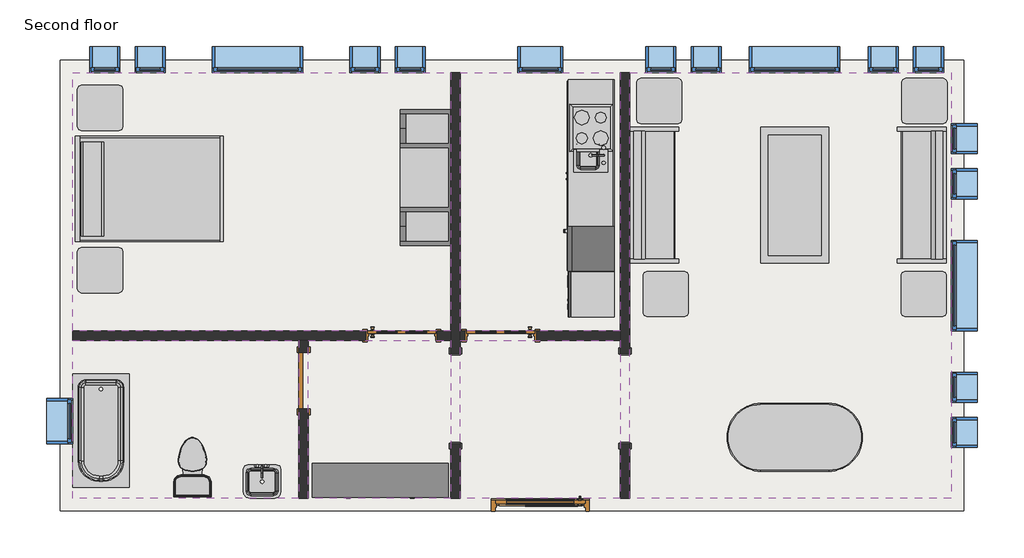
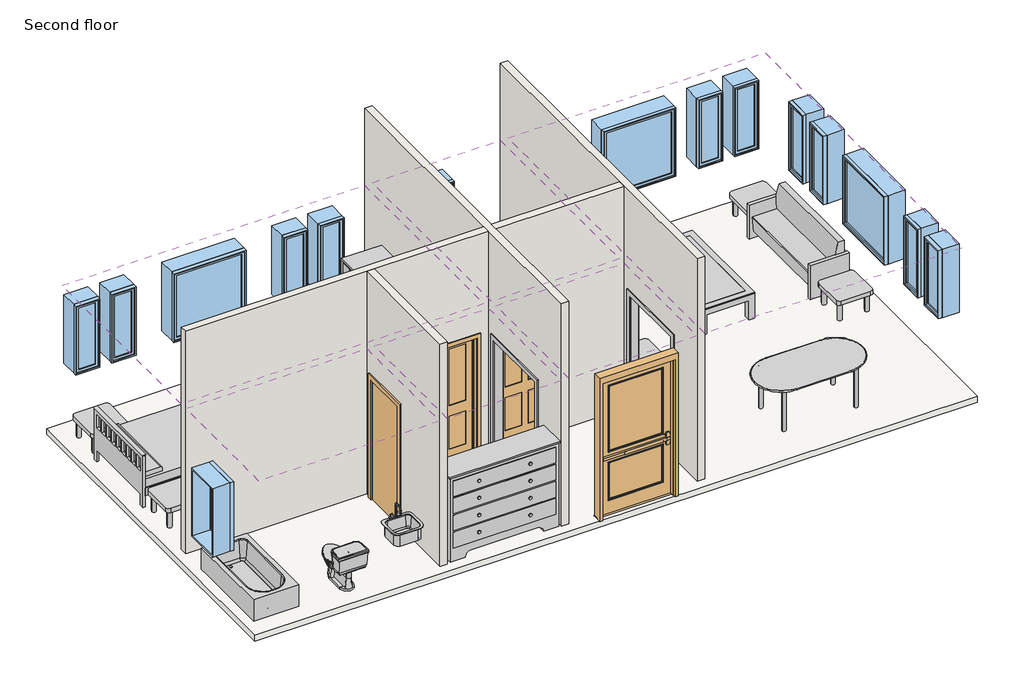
# One storey, incomplete: 17 windows, 14 furniture elements, 6 coverings, 6 proxies, 4 doors, 4 flow terminals, 4 walls, 1 slab.
"""IFC4 building model written with IfcOpenShell, lengths in millimetres."""

from ifc_helpers import new_model, si_unit, frame, origin, place, context, project, spatial, polyline, outline, extrude, faceted_brep, transform, mapped, element, save
from components import proxy_a6faaae8, proxy_45b28599, proxy_2d72b8be, proxy_f44482cc, proxy_d58c73d0, proxy_c523a7b7, door_734823c0, door_3a280f7b, door_48307b55, door_4d6c7550, flow_terminal_871c2e40, flow_terminal_62a433f7, toilet_domestic_3d_toilet_domestic_3d_f7549cf7, toilet_domestic_3d_toilet_domestic_3d_183bbd19, tub_rectangular_3d_tub_rectangular_3d_c56944d8, furniture_096e7f55, furniture_b11095bc, furniture_7c473f12, furniture_cf0b6580, furniture_a4ffab56, furniture_4aa42607, furniture_cd93a443, furniture_2c34a4f9, furniture_3a588284, furniture_1befe2a2, window_da97879f, window_d61ef850, window_60baf983, window_6eb97611

model = new_model("IFC4")

# Units and contexts
model_context = context("Model", 3, world=origin())
ifc_project = project(units=[si_unit("LENGTHUNIT", "METRE", prefix="MILLI")], contexts=[model_context])

# Site, building, storey
site = spatial("IfcSite", under=ifc_project)
building = spatial("IfcBuilding", under=site)
storey = spatial("IfcBuildingStorey", under=building, Name="Second floor", Elevation=3048.0)

# Proxies
placement = place(None, origin())
proxy_shape = proxy_a6faaae8(model_context)
element("IfcBuildingElementProxy", 1, Name="Cook Top-4 Unit2 : 22\" x 20\"", ObjectType="Cook Top-4 Unit2 : 22\" x 20\"", at=placement, inside=storey, context=model_context, shape_type="MappedRepresentation", body=[
    mapped(proxy_shape, transform((-9031.7273953, 6866.0370415, 3049.7), x_axis=(0.0, 1.0, 0.0), y_axis=(-1.0, 0.0, 0.0), z_axis=(0.0, 0.0, 1.0))),
])
proxy_2_shape = proxy_45b28599(model_context)
element("IfcBuildingElementProxy", 2, Name="Dishwasher : 24\" x 24\" x 34\"", ObjectType="Dishwasher : 24\" x 24\" x 34\"", at=placement, inside=storey, context=model_context, shape_type="MappedRepresentation", body=[
    mapped(proxy_2_shape, transform((-9291.8269601, 5000.45451, 3048.0), x_axis=(0.0, -1.0, 0.0), y_axis=(1.0, 0.0, 0.0), z_axis=(0.0, 0.0, 1.0))),
])
proxy_3_shape = proxy_2d72b8be(model_context)
element("IfcBuildingElementProxy", 3, Name="Kitchenette - Medium : 8'6\"", ObjectType="Kitchenette - Medium : 8'6\"", at=placement, inside=storey, context=model_context, shape_type="MappedRepresentation", body=[
    mapped(proxy_3_shape, transform((-8720.5773953, 6237.0747464, 3048.0), x_axis=(0.0, -1.0, 0.0), y_axis=(1.0, 0.0, 0.0), z_axis=(0.0, 0.0, 1.0))),
])
proxy_4_shape = proxy_f44482cc(model_context)
element("IfcBuildingElementProxy", 4, Name="Passage Opening-Cased : 48\" x 84\"", ObjectType="Passage Opening-Cased : 48\" x 84\"", at=placement, inside=storey, context=model_context, shape_type="MappedRepresentation", body=[
    mapped(proxy_4_shape, transform((-8577.1844712, 3224.0452741, 3048.0), x_axis=(0.0, 1.0, 0.0), y_axis=(-1.0, 0.0, 0.0), z_axis=(0.0, 0.0, 1.0))),
])
proxy_5_shape = proxy_d58c73d0(model_context)
element("IfcBuildingElementProxy", 5, Name="Passage Opening-Cased : 48\" x 84\"", ObjectType="Passage Opening-Cased : 48\" x 84\"", at=placement, inside=storey, context=model_context, shape_type="MappedRepresentation", body=[
    mapped(proxy_5_shape, transform((-10863.1844712, 3224.0452741, 3048.0), x_axis=(0.0, 1.0, 0.0), y_axis=(-1.0, 0.0, 0.0), z_axis=(0.0, 0.0, 1.0))),
])
proxy_6_shape = proxy_c523a7b7(model_context)
element("IfcBuildingElementProxy", 6, Name="Refrigerator : 24\" x 25\" LH", ObjectType="Refrigerator : 24\" x 25\" LH", at=placement, inside=storey, context=model_context, shape_type="MappedRepresentation", body=[
    mapped(proxy_6_shape, transform((-9020.2263668, 5234.0870415, 3048.0), x_axis=(0.0, -1.0, 0.0), y_axis=(1.0, 0.0, 0.0), z_axis=(0.0, 0.0, 1.0))),
])

# Coverings
element("IfcCovering", 7, ObjectType="GWB on Mtl. Stud", at=placement, inside=storey, context=model_context, shape_type="SweptSolid", body=[
    extrude(outline(polyline([(-16020.9719712, 7611.6441174), (-10926.6844712, 7611.6441174), (-10926.6844712, 4128.6691174), (-16020.9719712, 4128.6691174), (-16020.9719712, 7611.6441174)])), frame((0.0, 0.0, 5638.8), z_axis=(0.0, 0.0, 1.0), x_axis=(1.0, 0.0, 0.0)), (0.0, 0.0, 1.0), 107.95),
])
element("IfcCovering", 8, ObjectType="GWB on Mtl. Stud", at=placement, inside=storey, context=model_context, shape_type="SweptSolid", body=[
    extrude(outline(polyline([(-10799.6844712, 4128.6691174), (-10799.6844712, 7611.6441174), (-8640.6844712, 7611.6441174), (-8640.6844712, 4128.6691174), (-10799.6844712, 4128.6691174)])), frame((0.0, 0.0, 5638.8), z_axis=(0.0, 0.0, 1.0), x_axis=(1.0, 0.0, 0.0)), (0.0, 0.0, 1.0), 107.95),
])
element("IfcCovering", 9, ObjectType="GWB on Mtl. Stud", at=placement, inside=storey, context=model_context, shape_type="SweptSolid", body=[
    extrude(outline(polyline([(-8513.6844712, 1868.0691174), (-8513.6844712, 7611.6441174), (-4181.3969712, 7611.6441174), (-4181.3969712, 1868.0691174), (-8513.6844712, 1868.0691174)])), frame((0.0, 0.0, 5638.8), z_axis=(0.0, 0.0, 1.0), x_axis=(1.0, 0.0, 0.0)), (0.0, 0.0, 1.0), 107.95),
])
element("IfcCovering", 10, ObjectType="GWB on Mtl. Stud", at=placement, inside=storey, context=model_context, shape_type="SweptSolid", body=[
    extrude(outline(polyline([(-8640.6844712, 1868.0691174), (-10799.6844712, 1868.0691174), (-10799.6844712, 4001.6691174), (-8640.6844712, 4001.6691174), (-8640.6844712, 1868.0691174)])), frame((0.0, 0.0, 5638.8), z_axis=(0.0, 0.0, 1.0), x_axis=(1.0, 0.0, 0.0)), (0.0, 0.0, 1.0), 107.95),
])
element("IfcCovering", 11, ObjectType="GWB on Mtl. Stud", at=placement, inside=storey, context=model_context, shape_type="SweptSolid", body=[
    extrude(outline(polyline([(-10926.6844712, 1868.0691174), (-12845.9719712, 1868.0691174), (-12845.9719712, 4001.6691174), (-10926.6844712, 4001.6691174), (-10926.6844712, 1868.0691174)])), frame((0.0, 0.0, 5638.8), z_axis=(0.0, 0.0, 1.0), x_axis=(1.0, 0.0, 0.0)), (0.0, 0.0, 1.0), 107.95),
])
element("IfcCovering", 12, ObjectType="GWB on Mtl. Stud", at=placement, inside=storey, context=model_context, shape_type="SweptSolid", body=[
    extrude(outline(polyline([(-12972.9719712, 4001.6691174), (-12972.9719712, 1868.0691174), (-16020.9719712, 1868.0691174), (-16020.9719712, 4001.6691174), (-12972.9719712, 4001.6691174)])), frame((0.0, 0.0, 5638.8), z_axis=(0.0, 0.0, 1.0), x_axis=(1.0, 0.0, 0.0)), (0.0, 0.0, 1.0), 107.95),
])

# Doors
door_shape = door_734823c0(model_context)
element("IfcDoor", 13, ObjectType="Door-Exterior-Single-Two_Lite : 48\" x 96\"", at=placement, inside=storey, context=model_context, shape_type="MappedRepresentation", body=[
    mapped(door_shape, transform((-9720.1844712, 1685.5066174, 3048.0), x_axis=(-1.0, 0.0, 0.0), y_axis=(0.0, -1.0, 0.0), z_axis=(0.0, 0.0, 1.0))),
])
door_2_shape = door_3a280f7b(model_context)
element("IfcDoor", 14, ObjectType="Door-Interior-Single-4_Panel-Wood : 36\" x 84\"", at=placement, inside=storey, context=model_context, shape_type="MappedRepresentation", body=[
    mapped(door_2_shape, transform((-10253.5844712, 4068.3441174, 3048.0), x_axis=(-1.0, 0.0, 0.0), y_axis=(0.0, -1.0, 0.0), z_axis=(0.0, 0.0, 1.0))),
])
door_3_shape = door_48307b55(model_context)
element("IfcDoor", 15, ObjectType="Door-Interior-Single-4_Panel-Wood : 36\" x 84\"", at=placement, inside=storey, context=model_context, shape_type="MappedRepresentation", body=[
    mapped(door_3_shape, transform((-11588.6719712, 4068.3441174, 3048.0), x_axis=(1.0, 0.0, 0.0), y_axis=(0.0, 1.0, 0.0), z_axis=(0.0, 0.0, 1.0))),
])
door_4_shape = door_4d6c7550(model_context)
element("IfcDoor", 16, ObjectType="Single-Flush : 30\" x 84\"", at=placement, inside=storey, context=model_context, shape_type="MappedRepresentation", body=[
    mapped(door_4_shape, transform((-12909.4719712, 3455.5691174, 3048.0), x_axis=(0.0, 1.0, 0.0), y_axis=(-1.0, 0.0, 0.0), z_axis=(0.0, 0.0, 1.0))),
])

# Flow terminals
flow_terminal_shape = flow_terminal_871c2e40(model_context)
element("IfcFlowTerminal", 17, ObjectType="Sink Kitchen-Island : 18\" x 18\"", at=placement, inside=storey, context=model_context, shape_type="MappedRepresentation", body=[
    mapped(flow_terminal_shape, transform((-9040.4227964, 6513.4262821, 3035.3), x_axis=(0.0, -1.0, 0.0), y_axis=(1.0, 0.0, 0.0), z_axis=(0.0, 0.0, 1.0))),
])
flow_terminal_2_shape = flow_terminal_62a433f7(model_context)
element("IfcFlowTerminal", 18, ObjectType="Sink Vanity-Square : 20\" x 18\"", at=placement, inside=storey, context=model_context, shape_type="MappedRepresentation", body=[
    mapped(flow_terminal_2_shape, transform((-13483.9612118, 2145.1237163, 3048.0), x_axis=(1.0, 0.0, 0.0), y_axis=(0.0, 1.0, 0.0), z_axis=(0.0, 0.0, 1.0))),
])
toilet_domestic_3d_toilet_domestic_3d_shape = toilet_domestic_3d_toilet_domestic_3d_f7549cf7(model_context)
toilet_domestic_3d_toilet_domestic_3d_2_shape = toilet_domestic_3d_toilet_domestic_3d_183bbd19(model_context)
element("IfcFlowTerminal", 19, ObjectType="Toilet-Domestic-3D : Toilet-Domestic-3D", at=placement, inside=storey, context=model_context, shape_type="MappedRepresentation", body=[
    mapped(toilet_domestic_3d_toilet_domestic_3d_shape, transform((-14408.0719712, 2388.7691174, 3048.0), x_axis=(-1.0, 0.0, 0.0), y_axis=(0.0, -1.0, 0.0), z_axis=(0.0, 0.0, 1.0))),
    mapped(toilet_domestic_3d_toilet_domestic_3d_2_shape, transform((-14408.0719712, 2388.7691174, 3048.0), x_axis=(-1.0, 0.0, 0.0), y_axis=(0.0, -1.0, 0.0), z_axis=(0.0, 0.0, 1.0))),
])
tub_rectangular_3d_tub_rectangular_3d_shape = tub_rectangular_3d_tub_rectangular_3d_c56944d8(model_context)
element("IfcFlowTerminal", 20, ObjectType="Tub-Rectangular-3D : Tub-Rectangular-3D", at=placement, inside=storey, context=model_context, shape_type="MappedRepresentation", body=[
    mapped(tub_rectangular_3d_tub_rectangular_3d_shape, transform((-16197.1844712, 2435.4536487, 3048.0), x_axis=(0.0, -1.0, 0.0), y_axis=(1.0, 0.0, 0.0), z_axis=(0.0, 0.0, 1.0))),
])

# Furniture
furniture_shape = furniture_096e7f55(model_context)
element("IfcFurniture", 21, ObjectType="Bed-Shaker : Double 56\" x 78\"", at=placement, inside=storey, context=model_context, shape_type="MappedRepresentation", body=[
    mapped(furniture_shape, transform((-15975.8112951, 6061.1004868, 3048.0), x_axis=(0.0, 1.0, 0.0), y_axis=(-1.0, 0.0, 0.0), z_axis=(0.0, 0.0, 1.0))),
])
furniture_2_shape = furniture_b11095bc(model_context)
element("IfcFurniture", 22, ObjectType="Counter Top w Sink Hole : 24\" Depth", at=placement, inside=storey, context=model_context, shape_type="MappedRepresentation", body=[
    mapped(furniture_2_shape, transform((-8720.5773953, 6313.2747464, 3035.3), x_axis=(0.0, -1.0, 0.0), y_axis=(1.0, 0.0, 0.0), z_axis=(0.0, 0.0, 1.0))),
])
furniture_3_shape = furniture_7c473f12(model_context)
element("IfcFurniture", 23, ObjectType="Dresser : 72\" x 60\" x 18\"", at=placement, inside=storey, context=model_context, shape_type="MappedRepresentation", body=[
    mapped(furniture_3_shape, transform((-11608.4037114, 2478.8820715, 3048.0), x_axis=(1.0, 0.0, 0.0), y_axis=(0.0, 1.0, 0.0), z_axis=(0.0, 0.0, 1.0))),
])
furniture_4_shape = furniture_cf0b6580(model_context)
element("IfcFurniture", 24, ObjectType="Entertainment Center : 72\" x 72\" x 24\"", at=placement, inside=storey, context=model_context, shape_type="MappedRepresentation", body=[
    mapped(furniture_4_shape, transform((-10825.0844712, 6196.8069525, 3048.0), x_axis=(0.0, -1.0, 0.0), y_axis=(1.0, 0.0, 0.0), z_axis=(0.0, 0.0, 1.0))),
])
furniture_5_shape = furniture_a4ffab56(model_context)
element("IfcFurniture", 25, ObjectType="Sofa : 72\"", at=placement, inside=storey, context=model_context, shape_type="MappedRepresentation", body=[
    mapped(furniture_5_shape, transform((-8037.3303728, 5888.6861256, 3048.0), x_axis=(0.0, 1.0, 0.0), y_axis=(-1.0, 0.0, 0.0), z_axis=(0.0, 0.0, 1.0))),
])
furniture_6_shape = furniture_4aa42607(model_context)
element("IfcFurniture", 26, ObjectType="Sofa : 72\"", at=placement, inside=storey, context=model_context, shape_type="MappedRepresentation", body=[
    mapped(furniture_6_shape, transform((-4722.8385696, 5888.6861256, 3048.0), x_axis=(0.0, 1.0, 0.0), y_axis=(-1.0, 0.0, 0.0), z_axis=(0.0, 0.0, 1.0))),
])
furniture_7_shape = furniture_cd93a443(model_context)
element("IfcFurniture", 27, ObjectType="Table-Coffee : 36\" x 72\" x 18\"", at=placement, inside=storey, context=model_context, shape_type="MappedRepresentation", body=[
    mapped(furniture_7_shape, transform((-6386.395549, 5977.3223841, 3048.0), x_axis=(0.0, -1.0, 0.0), y_axis=(1.0, 0.0, 0.0), z_axis=(0.0, 0.0, 1.0))),
])
furniture_8_shape = furniture_2c34a4f9(model_context)
element("IfcFurniture", 28, ObjectType="Table-Dining Oval : 36\" x 72\"", at=placement, inside=storey, context=model_context, shape_type="MappedRepresentation", body=[
    mapped(furniture_8_shape, transform((-5889.3647991, 3051.6674781, 3048.0), x_axis=(1.0, 0.0, 0.0), y_axis=(0.0, 1.0, 0.0), z_axis=(0.0, 0.0, 1.0))),
])
furniture_9_shape = furniture_3a588284(model_context)
element("IfcFurniture", 29, ObjectType="Table-End : 24\" x 24\"", at=placement, inside=storey, context=model_context, shape_type="MappedRepresentation", body=[
    mapped(furniture_9_shape, transform((-8424.0054177, 7076.6566174, 3048.0), x_axis=(1.0, 0.0, 0.0), y_axis=(0.0, 1.0, 0.0), z_axis=(0.0, 0.0, 1.0))),
])
element("IfcFurniture", 30, ObjectType="Table-End : 24\" x 24\"", at=placement, inside=storey, context=model_context, shape_type="MappedRepresentation", body=[
    mapped(furniture_9_shape, transform((-8338.5433691, 4473.0178252, 3048.0), x_axis=(1.0, 0.0, 0.0), y_axis=(0.0, 1.0, 0.0), z_axis=(0.0, 0.0, 1.0))),
])
element("IfcFurniture", 31, ObjectType="Table-End : 24\" x 24\"", at=placement, inside=storey, context=model_context, shape_type="MappedRepresentation", body=[
    mapped(furniture_9_shape, transform((-15961.2056015, 4795.4191174, 3048.0), x_axis=(1.0, 0.0, 0.0), y_axis=(0.0, 1.0, 0.0), z_axis=(0.0, 0.0, 1.0))),
])
furniture_10_shape = furniture_1befe2a2(model_context)
element("IfcFurniture", 32, ObjectType="Table-End : 24\" x 24\"", at=placement, inside=storey, context=model_context, shape_type="MappedRepresentation", body=[
    mapped(furniture_10_shape, transform((-4234.5635246, 7076.6566174, 3048.0), x_axis=(-1.0, 0.0, 0.0), y_axis=(0.0, -1.0, 0.0), z_axis=(0.0, 0.0, 1.0))),
])
element("IfcFurniture", 33, ObjectType="Table-End : 24\" x 24\"", at=placement, inside=storey, context=model_context, shape_type="MappedRepresentation", body=[
    mapped(furniture_10_shape, transform((-4243.8255733, 4473.0178252, 3048.0), x_axis=(-1.0, 0.0, 0.0), y_axis=(0.0, -1.0, 0.0), z_axis=(0.0, 0.0, 1.0))),
])
element("IfcFurniture", 34, ObjectType="Table-End : 24\" x 24\"", at=placement, inside=storey, context=model_context, shape_type="MappedRepresentation", body=[
    mapped(furniture_10_shape, transform((-15961.2056015, 7288.6818561, 3048.0), x_axis=(1.0, 0.0, 0.0), y_axis=(0.0, 1.0, 0.0), z_axis=(0.0, 0.0, 1.0))),
])

# Slab
element("IfcSlab", 35, ObjectType="LW Concrete on Metal Deck", at=placement, inside=storey, context=model_context, shape_type="SweptSolid", body=[
    extrude(outline(polyline([(-4016.2969712, 7776.7441174), (-4016.2969712, 1702.9691174), (-16186.0719712, 1702.9691174), (-16186.0719712, 7776.7441174), (-4016.2969712, 7776.7441174)])), frame((0.0, 0.0, 2943.225), z_axis=(0.0, 0.0, 1.0), x_axis=(1.0, 0.0, 0.0)), (0.0, 0.0, 1.0), 104.775),
])

# Walls
element("IfcWall", 36, ObjectType="Interior - 5\" Partition (2-hr)", at=placement, inside=storey, context=model_context, shape_type="Brep", body=[
    faceted_brep([(-8640.6844712, 7611.6441174, 3048.0), (-8640.6844712, 4128.6691174, 3048.0), (-8640.6844712, 4001.6691174, 3048.0), (-8640.6844712, 3825.4566174, 3048.0), (-8640.6844712, 3825.4566174, 5181.6), (-8640.6844712, 2606.2566174, 5181.6), (-8640.6844712, 2606.2566174, 3048.0), (-8640.6844712, 1868.0691174, 3048.0), (-8640.6844712, 1868.0691174, 7010.4), (-8640.6844712, 4001.6691174, 7010.4), (-8640.6844712, 4128.6691174, 7010.4), (-8640.6844712, 7611.6441174, 7010.4), (-8513.6844712, 3825.4566174, 5181.6), (-8513.6844712, 3825.4566174, 3048.0), (-8513.6844712, 7611.6441174, 3048.0), (-8513.6844712, 7611.6441174, 7010.4), (-8513.6844712, 1868.0691174, 7010.4), (-8513.6844712, 1868.0691174, 3048.0), (-8513.6844712, 2606.2566174, 3048.0), (-8513.6844712, 2606.2566174, 5181.6)], [[[0, 1, 2, 3, 4, 5, 6, 7, 8, 9, 10, 11]], [[12, 13, 14, 15, 16, 17, 18, 19]], [[18, 17, 7, 6]], [[14, 13, 3, 2, 1, 0]], [[11, 10, 9, 8, 16, 15]], [[6, 5, 19, 18]], [[4, 3, 13, 12]], [[5, 4, 12, 19]], [[0, 11, 15, 14]], [[8, 7, 17, 16]]]),
])
element("IfcWall", 37, ObjectType="Interior - 5\" Partition (2-hr)", at=placement, inside=storey, context=model_context, shape_type="Brep", body=[
    faceted_brep([(-10926.6844712, 7611.6441174, 3048.0), (-10926.6844712, 4128.6691174, 3048.0), (-10926.6844712, 4001.6691174, 3048.0), (-10926.6844712, 3825.4566174, 3048.0), (-10926.6844712, 3825.4566174, 5181.6), (-10926.6844712, 2606.2566174, 5181.6), (-10926.6844712, 2606.2566174, 3048.0), (-10926.6844712, 1868.0691174, 3048.0), (-10926.6844712, 1868.0691174, 7010.4), (-10926.6844712, 4001.6691174, 7010.4), (-10926.6844712, 4128.6691174, 7010.4), (-10926.6844712, 7611.6441174, 7010.4), (-10799.6844712, 3825.4566174, 5181.6), (-10799.6844712, 3825.4566174, 3048.0), (-10799.6844712, 4001.6691174, 3048.0), (-10799.6844712, 4128.6691174, 3048.0), (-10799.6844712, 7611.6441174, 3048.0), (-10799.6844712, 7611.6441174, 7010.4), (-10799.6844712, 4128.6691174, 7010.4), (-10799.6844712, 4001.6691174, 7010.4), (-10799.6844712, 1868.0691174, 7010.4), (-10799.6844712, 1868.0691174, 3048.0), (-10799.6844712, 2606.2566174, 3048.0), (-10799.6844712, 2606.2566174, 5181.6)], [[[0, 1, 2, 3, 4, 5, 6, 7, 8, 9, 10, 11]], [[12, 13, 14, 15, 16, 17, 18, 19, 20, 21, 22, 23]], [[22, 21, 7, 6]], [[16, 15, 14, 13, 3, 2, 1, 0]], [[11, 10, 9, 8, 20, 19, 18, 17]], [[6, 5, 23, 22]], [[4, 3, 13, 12]], [[5, 4, 12, 23]], [[0, 11, 17, 16]], [[8, 7, 21, 20]]]),
])
element("IfcWall", 38, ObjectType="Interior - 5\" Partition (2-hr)", at=placement, inside=storey, context=model_context, shape_type="Brep", body=[
    faceted_brep([(-8640.6844712, 4001.6691174, 3048.0), (-8640.6844712, 4001.6691174, 7010.4), (-10799.6844712, 4001.6691174, 7010.4), (-10799.6844712, 4001.6691174, 3048.0), (-10736.1844712, 4001.6691174, 3048.0), (-10736.1844712, 4001.6691174, 5207.0), (-9770.9844712, 4001.6691174, 5207.0), (-9770.9844712, 4001.6691174, 3048.0), (-8640.6844712, 4128.6691174, 7010.4), (-8640.6844712, 4128.6691174, 3048.0), (-9770.9844712, 4128.6691174, 3048.0), (-9770.9844712, 4128.6691174, 5207.0), (-10736.1844712, 4128.6691174, 5207.0), (-10736.1844712, 4128.6691174, 3048.0), (-10799.6844712, 4128.6691174, 3048.0), (-10799.6844712, 4128.6691174, 7010.4)], [[[0, 1, 2, 3, 4, 5, 6, 7]], [[8, 9, 10, 11, 12, 13, 14, 15]], [[9, 0, 7, 10]], [[13, 4, 3, 14]], [[1, 8, 15, 2]], [[1, 0, 9, 8]], [[3, 2, 15, 14]], [[5, 4, 13, 12]], [[6, 5, 12, 11]], [[7, 6, 11, 10]]]),
    faceted_brep([(-16020.9719712, 4001.6691174, 3048.0), (-12972.9719712, 4001.6691174, 3048.0), (-12845.9719712, 4001.6691174, 3048.0), (-12071.2719712, 4001.6691174, 3048.0), (-12071.2719712, 4001.6691174, 5207.0), (-11106.0719712, 4001.6691174, 5207.0), (-11106.0719712, 4001.6691174, 3048.0), (-10926.6844712, 4001.6691174, 3048.0), (-10926.6844712, 4001.6691174, 7010.4), (-12845.9719712, 4001.6691174, 7010.4), (-12972.9719712, 4001.6691174, 7010.4), (-16020.9719712, 4001.6691174, 7010.4), (-12071.2719712, 4128.6691174, 3048.0), (-16020.9719712, 4128.6691174, 3048.0), (-16020.9719712, 4128.6691174, 7010.4), (-10926.6844712, 4128.6691174, 7010.4), (-10926.6844712, 4128.6691174, 3048.0), (-11106.0719712, 4128.6691174, 3048.0), (-11106.0719712, 4128.6691174, 5207.0), (-12071.2719712, 4128.6691174, 5207.0)], [[[0, 1, 2, 3, 4, 5, 6, 7, 8, 9, 10, 11]], [[12, 13, 14, 15, 16, 17, 18, 19]], [[6, 17, 16, 7]], [[3, 2, 1, 0, 13, 12]], [[14, 11, 10, 9, 8, 15]], [[8, 7, 16, 15]], [[5, 18, 17, 6]], [[18, 5, 4, 19]], [[19, 4, 3, 12]], [[0, 11, 14, 13]]]),
])
element("IfcWall", 39, ObjectType="Interior - 5\" Partition (2-hr)", at=placement, inside=storey, context=model_context, shape_type="SweptSolid", body=[
    extrude(outline(polyline([(4001.6691174, 3048.0), (3836.5691174, 3048.0), (3836.5691174, 5181.6), (3074.5691174, 5181.6), (3074.5691174, 3048.0), (1868.0691174, 3048.0), (1868.0691174, 7010.4), (4001.6691174, 7010.4), (4001.6691174, 3048.0)])), frame((-12972.9719712, 0.0, 0.0), z_axis=(1.0, 0.0, 0.0), x_axis=(0.0, 1.0, 0.0)), (0.0, 0.0, 1.0), 127.0),
])

# Windows
window_shape = window_da97879f(model_context)
element("IfcWindow", 40, ObjectType="Fixed : 16\" x 48\"", at=placement, inside=storey, context=model_context, shape_type="MappedRepresentation", body=[
    mapped(window_shape, transform((-15625.6844712, 7787.8566174, 3048.0), x_axis=(-1.0, 0.0, 0.0), y_axis=(0.0, -1.0, 0.0), z_axis=(0.0, 0.0, 1.0))),
])
element("IfcWindow", 41, ObjectType="Fixed : 16\" x 48\"", at=placement, inside=storey, context=model_context, shape_type="MappedRepresentation", body=[
    mapped(window_shape, transform((-15016.0844712, 7787.8566174, 3048.0), x_axis=(-1.0, 0.0, 0.0), y_axis=(0.0, -1.0, 0.0), z_axis=(0.0, 0.0, 1.0))),
])
element("IfcWindow", 42, ObjectType="Fixed : 16\" x 48\"", at=placement, inside=storey, context=model_context, shape_type="MappedRepresentation", body=[
    mapped(window_shape, transform((-8132.6844712, 7787.8566174, 3048.0), x_axis=(-1.0, 0.0, 0.0), y_axis=(0.0, -1.0, 0.0), z_axis=(0.0, 0.0, 1.0))),
])
element("IfcWindow", 43, ObjectType="Fixed : 16\" x 48\"", at=placement, inside=storey, context=model_context, shape_type="MappedRepresentation", body=[
    mapped(window_shape, transform((-7523.0844712, 7787.8566174, 3048.0), x_axis=(-1.0, 0.0, 0.0), y_axis=(0.0, -1.0, 0.0), z_axis=(0.0, 0.0, 1.0))),
])
element("IfcWindow", 44, ObjectType="Fixed : 16\" x 48\"", at=placement, inside=storey, context=model_context, shape_type="MappedRepresentation", body=[
    mapped(window_shape, transform((-4005.1844712, 6759.1566174, 3048.0), x_axis=(0.0, 1.0, 0.0), y_axis=(-1.0, 0.0, 0.0), z_axis=(0.0, 0.0, 1.0))),
])
element("IfcWindow", 45, ObjectType="Fixed : 16\" x 48\"", at=placement, inside=storey, context=model_context, shape_type="MappedRepresentation", body=[
    mapped(window_shape, transform((-4005.1844712, 6149.5566174, 3048.0), x_axis=(0.0, 1.0, 0.0), y_axis=(-1.0, 0.0, 0.0), z_axis=(0.0, 0.0, 1.0))),
])
window_2_shape = window_d61ef850(model_context)
element("IfcWindow", 46, ObjectType="Fixed : 16\" x 48\"", at=placement, inside=storey, context=model_context, shape_type="MappedRepresentation", body=[
    mapped(window_2_shape, transform((-11434.6844712, 7787.8566174, 3048.0), x_axis=(1.0, 0.0, 0.0), y_axis=(0.0, 1.0, 0.0), z_axis=(0.0, 0.0, 1.0))),
])
element("IfcWindow", 47, ObjectType="Fixed : 16\" x 48\"", at=placement, inside=storey, context=model_context, shape_type="MappedRepresentation", body=[
    mapped(window_2_shape, transform((-12044.2844712, 7787.8566174, 3048.0), x_axis=(1.0, 0.0, 0.0), y_axis=(0.0, 1.0, 0.0), z_axis=(0.0, 0.0, 1.0))),
])
element("IfcWindow", 48, ObjectType="Fixed : 16\" x 48\"", at=placement, inside=storey, context=model_context, shape_type="MappedRepresentation", body=[
    mapped(window_2_shape, transform((-4449.6844712, 7787.8566174, 3048.0), x_axis=(1.0, 0.0, 0.0), y_axis=(0.0, 1.0, 0.0), z_axis=(0.0, 0.0, 1.0))),
])
element("IfcWindow", 49, ObjectType="Fixed : 16\" x 48\"", at=placement, inside=storey, context=model_context, shape_type="MappedRepresentation", body=[
    mapped(window_2_shape, transform((-5059.2844712, 7787.8566174, 3048.0), x_axis=(1.0, 0.0, 0.0), y_axis=(0.0, 1.0, 0.0), z_axis=(0.0, 0.0, 1.0))),
])
element("IfcWindow", 50, ObjectType="Fixed : 16\" x 48\"", at=placement, inside=storey, context=model_context, shape_type="MappedRepresentation", body=[
    mapped(window_2_shape, transform((-4005.1844712, 2720.5566174, 3048.0), x_axis=(0.0, -1.0, 0.0), y_axis=(1.0, 0.0, 0.0), z_axis=(0.0, 0.0, 1.0))),
])
element("IfcWindow", 51, ObjectType="Fixed : 16\" x 48\"", at=placement, inside=storey, context=model_context, shape_type="MappedRepresentation", body=[
    mapped(window_2_shape, transform((-4005.1844712, 3330.1566174, 3048.0), x_axis=(0.0, -1.0, 0.0), y_axis=(1.0, 0.0, 0.0), z_axis=(0.0, 0.0, 1.0))),
])
window_3_shape = window_60baf983(model_context)
element("IfcWindow", 52, ObjectType="Fixed : 24\" x 48\"", at=placement, inside=storey, context=model_context, shape_type="MappedRepresentation", body=[
    mapped(window_3_shape, transform((-9758.2844712, 7787.8566174, 3048.0), x_axis=(-1.0, 0.0, 0.0), y_axis=(0.0, -1.0, 0.0), z_axis=(0.0, 0.0, 1.0))),
])
element("IfcWindow", 53, ObjectType="Fixed : 24\" x 48\"", at=placement, inside=storey, context=model_context, shape_type="MappedRepresentation", body=[
    mapped(window_3_shape, transform((-16197.1844712, 2872.9566174, 3048.0), x_axis=(0.0, -1.0, 0.0), y_axis=(1.0, 0.0, 0.0), z_axis=(0.0, 0.0, 1.0))),
])
window_4_shape = window_6eb97611(model_context)
element("IfcWindow", 54, ObjectType="Fixed : 48\" x 48\"", at=placement, inside=storey, context=model_context, shape_type="MappedRepresentation", body=[
    mapped(window_4_shape, transform((-13568.2844712, 7787.8566174, 3048.0), x_axis=(-1.0, 0.0, 0.0), y_axis=(0.0, -1.0, 0.0), z_axis=(0.0, 0.0, 1.0))),
])
element("IfcWindow", 55, ObjectType="Fixed : 48\" x 48\"", at=placement, inside=storey, context=model_context, shape_type="MappedRepresentation", body=[
    mapped(window_4_shape, transform((-6329.2844712, 7787.8566174, 3048.0), x_axis=(-1.0, 0.0, 0.0), y_axis=(0.0, -1.0, 0.0), z_axis=(0.0, 0.0, 1.0))),
])
element("IfcWindow", 56, ObjectType="Fixed : 48\" x 48\"", at=placement, inside=storey, context=model_context, shape_type="MappedRepresentation", body=[
    mapped(window_4_shape, transform((-4005.1844712, 4777.9566174, 3048.0), x_axis=(0.0, 1.0, 0.0), y_axis=(-1.0, 0.0, 0.0), z_axis=(0.0, 0.0, 1.0))),
])

save(model, "model.ifc")
